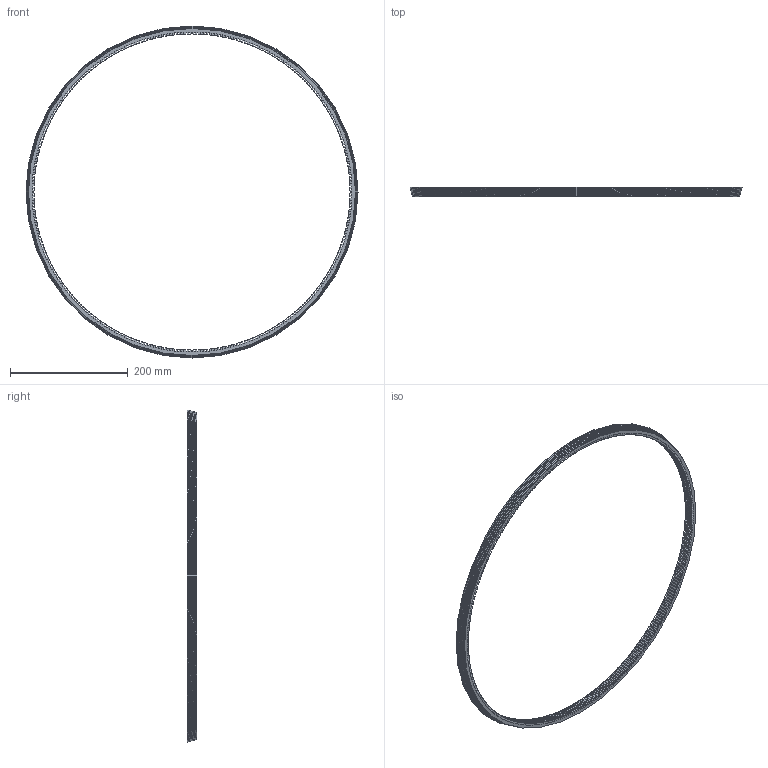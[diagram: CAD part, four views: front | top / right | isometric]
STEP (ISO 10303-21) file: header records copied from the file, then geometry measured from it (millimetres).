
FILE_DESCRIPTION(('Open CASCADE Model'),'2;1');
FILE_NAME('Open CASCADE Shape Model','2026-10-18T22:57:43',('Author'),( 'Open CASCADE'),'Open CASCADE STEP processor 7.9','Open CASCADE 7.9' ,'Unknown');
FILE_SCHEMA(('AUTOMOTIVE_DESIGN { 1 0 10303 214 1 1 1 1 }'));
Products named in the file (1): Open CASCADE STEP translator 7.9 3
Bounding box: 564.18 x 16 x 564.18 mm (x, y, z)
Volume: 289515.1 mm3; surface area: 125051.6 mm2
Topology: 1 solids, 1 shells, 1453 faces, 4343 edges, 2892 vertices
Faces by surface type: plane 1082, cylinder 360, cone 11
Entity records: 100702 total; most frequent: CARTESIAN_POINT 21695, DIRECTION 12349, ORIENTED_EDGE 8686, PCURVE 8686, DEFINITIONAL_REPRESENTATION 8686, LINE 7255, VECTOR 7255, EDGE_CURVE 4343
